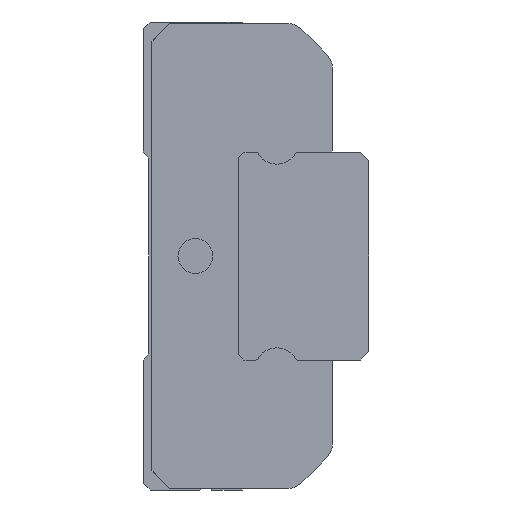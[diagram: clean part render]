
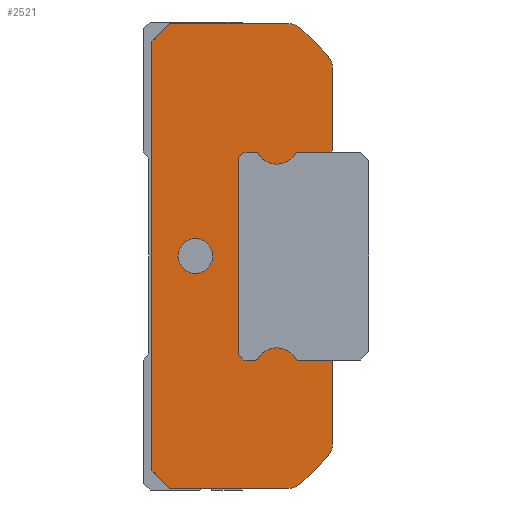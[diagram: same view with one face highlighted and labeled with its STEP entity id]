
A CAD part, left-side view. The second image highlights one B-rep face of the part: STEP entity #2521.
In plain terms, the highlighted planar face has unit normal (-1, 0, 0).
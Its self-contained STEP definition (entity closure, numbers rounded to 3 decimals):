
#101=CIRCLE('',#2756,1.);
#102=CIRCLE('',#2757,1.);
#103=CIRCLE('',#2758,1.);
#104=CIRCLE('',#2759,1.);
#105=CIRCLE('',#2760,1.);
#106=CIRCLE('',#2761,0.15);
#107=CIRCLE('',#2762,1.25);
#108=CIRCLE('',#2763,0.15);
#109=CIRCLE('',#2764,0.15);
#110=CIRCLE('',#2765,1.25);
#111=CIRCLE('',#2766,0.15);
#512=ORIENTED_EDGE('',*,*,#1093,.T.);
#513=ORIENTED_EDGE('',*,*,#1094,.T.);
#514=ORIENTED_EDGE('',*,*,#1060,.F.);
#515=ORIENTED_EDGE('',*,*,#1095,.F.);
#516=ORIENTED_EDGE('',*,*,#1096,.F.);
#517=ORIENTED_EDGE('',*,*,#1097,.F.);
#518=ORIENTED_EDGE('',*,*,#975,.F.);
#519=ORIENTED_EDGE('',*,*,#992,.F.);
#520=ORIENTED_EDGE('',*,*,#1050,.F.);
#521=ORIENTED_EDGE('',*,*,#1040,.F.);
#522=ORIENTED_EDGE('',*,*,#1048,.F.);
#523=ORIENTED_EDGE('',*,*,#1098,.F.);
#524=ORIENTED_EDGE('',*,*,#1099,.F.);
#525=ORIENTED_EDGE('',*,*,#1100,.F.);
#526=ORIENTED_EDGE('',*,*,#1062,.F.);
#527=ORIENTED_EDGE('',*,*,#1101,.T.);
#528=ORIENTED_EDGE('',*,*,#1102,.T.);
#529=ORIENTED_EDGE('',*,*,#1103,.F.);
#530=ORIENTED_EDGE('',*,*,#1104,.T.);
#531=ORIENTED_EDGE('',*,*,#1105,.T.);
#532=ORIENTED_EDGE('',*,*,#1106,.T.);
#533=ORIENTED_EDGE('',*,*,#1107,.T.);
#534=ORIENTED_EDGE('',*,*,#1108,.T.);
#535=ORIENTED_EDGE('',*,*,#1109,.T.);
#536=ORIENTED_EDGE('',*,*,#1110,.T.);
#537=ORIENTED_EDGE('',*,*,#1111,.F.);
#538=ORIENTED_EDGE('',*,*,#1112,.T.);
#975=EDGE_CURVE('',#1303,#1304,#1519,.T.);
#992=EDGE_CURVE('',#1315,#1303,#1534,.T.);
#1040=EDGE_CURVE('',#1355,#1356,#1580,.T.);
#1048=EDGE_CURVE('',#1360,#1355,#1588,.T.);
#1050=EDGE_CURVE('',#1356,#1315,#1590,.T.);
#1060=EDGE_CURVE('',#1364,#1362,#1600,.T.);
#1062=EDGE_CURVE('',#1365,#1367,#1602,.T.);
#1093=EDGE_CURVE('',#1394,#1394,#101,.T.);
#1094=EDGE_CURVE('',#1395,#1362,#1622,.T.);
#1095=EDGE_CURVE('',#1396,#1364,#102,.T.);
#1096=EDGE_CURVE('',#1397,#1396,#1623,.T.);
#1097=EDGE_CURVE('',#1304,#1397,#103,.T.);
#1098=EDGE_CURVE('',#1398,#1360,#104,.T.);
#1099=EDGE_CURVE('',#1399,#1398,#1624,.T.);
#1100=EDGE_CURVE('',#1367,#1399,#105,.T.);
#1101=EDGE_CURVE('',#1365,#1400,#1625,.T.);
#1102=EDGE_CURVE('',#1400,#1401,#106,.T.);
#1103=EDGE_CURVE('',#1402,#1401,#107,.T.);
#1104=EDGE_CURVE('',#1402,#1403,#108,.T.);
#1105=EDGE_CURVE('',#1403,#1404,#1626,.T.);
#1106=EDGE_CURVE('',#1404,#1405,#1627,.T.);
#1107=EDGE_CURVE('',#1405,#1406,#1628,.T.);
#1108=EDGE_CURVE('',#1406,#1407,#1629,.T.);
#1109=EDGE_CURVE('',#1407,#1408,#1630,.T.);
#1110=EDGE_CURVE('',#1408,#1409,#109,.T.);
#1111=EDGE_CURVE('',#1410,#1409,#110,.T.);
#1112=EDGE_CURVE('',#1410,#1395,#111,.T.);
#1303=VERTEX_POINT('',#3844);
#1304=VERTEX_POINT('',#3846);
#1315=VERTEX_POINT('',#3877);
#1355=VERTEX_POINT('',#3975);
#1356=VERTEX_POINT('',#3977);
#1360=VERTEX_POINT('',#3990);
#1362=VERTEX_POINT('',#4007);
#1364=VERTEX_POINT('',#4011);
#1365=VERTEX_POINT('',#4015);
#1367=VERTEX_POINT('',#4018);
#1394=VERTEX_POINT('',#4080);
#1395=VERTEX_POINT('',#4082);
#1396=VERTEX_POINT('',#4084);
#1397=VERTEX_POINT('',#4086);
#1398=VERTEX_POINT('',#4089);
#1399=VERTEX_POINT('',#4091);
#1400=VERTEX_POINT('',#4094);
#1401=VERTEX_POINT('',#4096);
#1402=VERTEX_POINT('',#4098);
#1403=VERTEX_POINT('',#4100);
#1404=VERTEX_POINT('',#4102);
#1405=VERTEX_POINT('',#4104);
#1406=VERTEX_POINT('',#4106);
#1407=VERTEX_POINT('',#4108);
#1408=VERTEX_POINT('',#4110);
#1409=VERTEX_POINT('',#4112);
#1410=VERTEX_POINT('',#4114);
#1519=LINE('',#3845,#1757);
#1534=LINE('',#3878,#1772);
#1580=LINE('',#3976,#1818);
#1588=LINE('',#3991,#1826);
#1590=LINE('',#3994,#1828);
#1600=LINE('',#4012,#1838);
#1602=LINE('',#4017,#1840);
#1622=LINE('',#4081,#1860);
#1623=LINE('',#4085,#1861);
#1624=LINE('',#4090,#1862);
#1625=LINE('',#4093,#1863);
#1626=LINE('',#4101,#1864);
#1627=LINE('',#4103,#1865);
#1628=LINE('',#4105,#1866);
#1629=LINE('',#4107,#1867);
#1630=LINE('',#4109,#1868);
#1757=VECTOR('',#3108,1000.);
#1772=VECTOR('',#3135,1000.);
#1818=VECTOR('',#3205,1000.);
#1826=VECTOR('',#3217,1000.);
#1828=VECTOR('',#3221,1000.);
#1838=VECTOR('',#3239,1000.);
#1840=VECTOR('',#3243,1000.);
#1860=VECTOR('',#3295,1000.);
#1861=VECTOR('',#3298,1000.);
#1862=VECTOR('',#3303,1000.);
#1863=VECTOR('',#3306,1000.);
#1864=VECTOR('',#3313,1000.);
#1865=VECTOR('',#3314,1000.);
#1866=VECTOR('',#3315,1000.);
#1867=VECTOR('',#3316,1000.);
#1868=VECTOR('',#3317,1000.);
#2059=EDGE_LOOP('',(#512));
#2060=EDGE_LOOP('',(#513,#514,#515,#516,#517,#518,#519,#520,#521,#522,#523,
#524,#525,#526,#527,#528,#529,#530,#531,#532,#533,#534,#535,#536,#537,#538));
#2263=FACE_BOUND('',#2059,.T.);
#2264=FACE_BOUND('',#2060,.T.);
#2406=PLANE('',#2755);
#2521=ADVANCED_FACE('',(#2263,#2264),#2406,.F.);
#2755=AXIS2_PLACEMENT_3D('',#4078,#3291,#3292);
#2756=AXIS2_PLACEMENT_3D('',#4079,#3293,#3294);
#2757=AXIS2_PLACEMENT_3D('',#4083,#3296,#3297);
#2758=AXIS2_PLACEMENT_3D('',#4087,#3299,#3300);
#2759=AXIS2_PLACEMENT_3D('',#4088,#3301,#3302);
#2760=AXIS2_PLACEMENT_3D('',#4092,#3304,#3305);
#2761=AXIS2_PLACEMENT_3D('',#4095,#3307,#3308);
#2762=AXIS2_PLACEMENT_3D('',#4097,#3309,#3310);
#2763=AXIS2_PLACEMENT_3D('',#4099,#3311,#3312);
#2764=AXIS2_PLACEMENT_3D('',#4111,#3318,#3319);
#2765=AXIS2_PLACEMENT_3D('',#4113,#3320,#3321);
#2766=AXIS2_PLACEMENT_3D('',#4115,#3322,#3323);
#3108=DIRECTION('',(0.,-1.,0.));
#3135=DIRECTION('',(0.,-0.707,0.707));
#3205=DIRECTION('',(0.,0.707,0.707));
#3217=DIRECTION('',(0.,1.,0.));
#3221=DIRECTION('',(0.,0.,1.));
#3239=DIRECTION('',(0.,0.,-1.));
#3243=DIRECTION('',(0.,0.,-1.));
#3291=DIRECTION('',(1.,0.,0.));
#3292=DIRECTION('',(0.,0.,-1.));
#3293=DIRECTION('',(1.,0.,0.));
#3294=DIRECTION('',(0.,0.,-1.));
#3295=DIRECTION('',(0.,-1.,0.));
#3296=DIRECTION('',(1.,0.,0.));
#3297=DIRECTION('',(0.,0.,-1.));
#3298=DIRECTION('',(0.,-0.707,-0.707));
#3299=DIRECTION('',(1.,0.,0.));
#3300=DIRECTION('',(0.,0.,-1.));
#3301=DIRECTION('',(1.,0.,0.));
#3302=DIRECTION('',(0.,0.,-1.));
#3303=DIRECTION('',(0.,0.707,-0.707));
#3304=DIRECTION('',(1.,0.,0.));
#3305=DIRECTION('',(0.,0.,-1.));
#3306=DIRECTION('',(0.,1.,0.));
#3307=DIRECTION('',(1.,0.,0.));
#3308=DIRECTION('',(0.,0.,-1.));
#3309=DIRECTION('',(1.,0.,0.));
#3310=DIRECTION('',(0.,0.,-1.));
#3311=DIRECTION('',(1.,0.,0.));
#3312=DIRECTION('',(0.,0.,-1.));
#3313=DIRECTION('',(0.,1.,0.));
#3314=DIRECTION('',(0.,0.707,0.707));
#3315=DIRECTION('',(0.,0.,1.));
#3316=DIRECTION('',(0.,-0.707,0.707));
#3317=DIRECTION('',(0.,-1.,0.));
#3318=DIRECTION('',(1.,0.,0.));
#3319=DIRECTION('',(0.,0.,-1.));
#3320=DIRECTION('',(1.,0.,0.));
#3321=DIRECTION('',(0.,0.,-1.));
#3322=DIRECTION('',(1.,0.,0.));
#3323=DIRECTION('',(0.,0.,-1.));
#3844=CARTESIAN_POINT('',(-17.2,9.5,13.4));
#3845=CARTESIAN_POINT('',(-17.2,9.5,13.4));
#3846=CARTESIAN_POINT('',(-17.2,2.614,13.4));
#3877=CARTESIAN_POINT('',(-17.2,10.5,12.4));
#3878=CARTESIAN_POINT('',(-17.2,10.5,12.4));
#3975=CARTESIAN_POINT('',(-17.2,9.5,-13.4));
#3976=CARTESIAN_POINT('',(-17.2,9.5,-13.4));
#3977=CARTESIAN_POINT('',(-17.2,10.5,-12.4));
#3990=CARTESIAN_POINT('',(-17.2,2.614,-13.4));
#3991=CARTESIAN_POINT('',(-17.2,2.614,-13.4));
#3994=CARTESIAN_POINT('',(-17.2,10.5,-12.4));
#4007=CARTESIAN_POINT('',(-17.2,0.1,6.));
#4011=CARTESIAN_POINT('',(-17.2,0.1,10.886));
#4012=CARTESIAN_POINT('',(-17.2,0.1,10.886));
#4015=CARTESIAN_POINT('',(-17.2,0.1,-6.));
#4017=CARTESIAN_POINT('',(-17.2,0.1,10.886));
#4018=CARTESIAN_POINT('',(-17.2,0.1,-10.886));
#4078=CARTESIAN_POINT('',(-17.2,2.614,12.4));
#4079=CARTESIAN_POINT('',(-17.2,8.,0.));
#4080=CARTESIAN_POINT('',(-17.2,8.,-1.));
#4081=CARTESIAN_POINT('',(-17.2,2.088,6.));
#4082=CARTESIAN_POINT('',(-17.2,2.088,6.));
#4083=CARTESIAN_POINT('',(-17.2,1.1,10.886));
#4084=CARTESIAN_POINT('',(-17.2,0.393,11.593));
#4085=CARTESIAN_POINT('',(-17.2,1.907,13.107));
#4086=CARTESIAN_POINT('',(-17.2,1.907,13.107));
#4087=CARTESIAN_POINT('',(-17.2,2.614,12.4));
#4088=CARTESIAN_POINT('',(-17.2,2.614,-12.4));
#4089=CARTESIAN_POINT('',(-17.2,1.907,-13.107));
#4090=CARTESIAN_POINT('',(-17.2,0.393,-11.593));
#4091=CARTESIAN_POINT('',(-17.2,0.393,-11.593));
#4092=CARTESIAN_POINT('',(-17.2,1.1,-10.886));
#4093=CARTESIAN_POINT('',(-17.2,-1.5,-6.));
#4094=CARTESIAN_POINT('',(-17.2,2.088,-6.));
#4095=CARTESIAN_POINT('',(-17.2,2.088,-5.85));
#4096=CARTESIAN_POINT('',(-17.2,2.217,-5.925));
#4097=CARTESIAN_POINT('',(-17.2,3.3,-6.55));
#4098=CARTESIAN_POINT('',(-17.2,4.383,-5.925));
#4099=CARTESIAN_POINT('',(-17.2,4.512,-5.85));
#4100=CARTESIAN_POINT('',(-17.2,4.512,-6.));
#4101=CARTESIAN_POINT('',(-17.2,4.512,-6.));
#4102=CARTESIAN_POINT('',(-17.2,5.2,-6.));
#4103=CARTESIAN_POINT('',(-17.2,5.2,-6.));
#4104=CARTESIAN_POINT('',(-17.2,5.5,-5.7));
#4105=CARTESIAN_POINT('',(-17.2,5.5,-5.7));
#4106=CARTESIAN_POINT('',(-17.2,5.5,5.7));
#4107=CARTESIAN_POINT('',(-17.2,5.5,5.7));
#4108=CARTESIAN_POINT('',(-17.2,5.2,6.));
#4109=CARTESIAN_POINT('',(-17.2,5.2,6.));
#4110=CARTESIAN_POINT('',(-17.2,4.512,6.));
#4111=CARTESIAN_POINT('',(-17.2,4.512,5.85));
#4112=CARTESIAN_POINT('',(-17.2,4.383,5.925));
#4113=CARTESIAN_POINT('',(-17.2,3.3,6.55));
#4114=CARTESIAN_POINT('',(-17.2,2.217,5.925));
#4115=CARTESIAN_POINT('',(-17.2,2.088,5.85));
